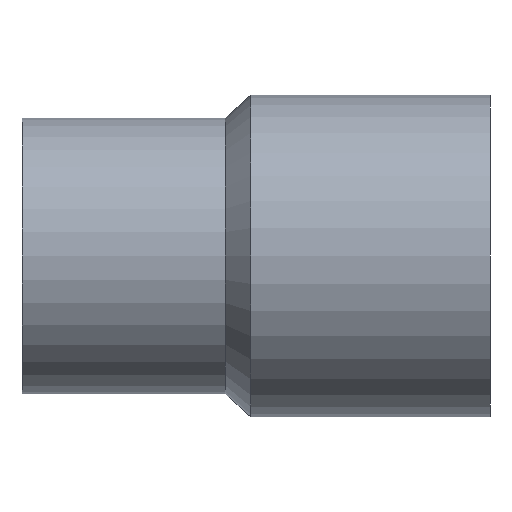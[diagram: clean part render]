
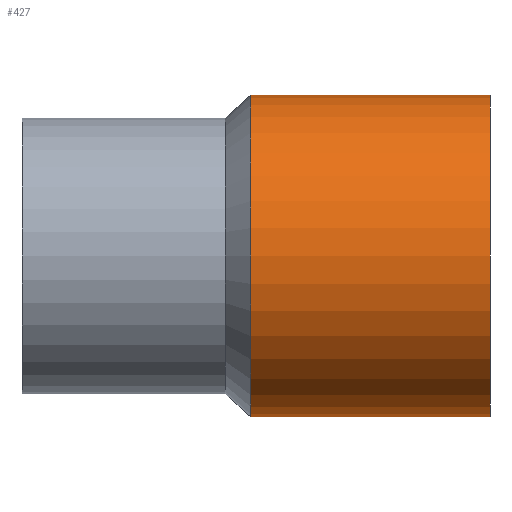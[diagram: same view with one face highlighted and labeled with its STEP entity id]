
A CAD part, front view. The second image highlights one B-rep face of the part: STEP entity #427.
In plain terms, the highlighted cylindrical face has radius 31.625 mm (diameter 63.25 mm), a partial arc.
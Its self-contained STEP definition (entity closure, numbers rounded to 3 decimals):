
#16 = AXIS2_PLACEMENT_3D ( 'NONE', #140, #131, #141 ) ;
#71 = LINE ( 'NONE', #77, #224 ) ;
#77 = CARTESIAN_POINT ( 'NONE',  ( -77.962, 0., -31.625 ) ) ;
#88 = DIRECTION ( 'NONE',  ( -1., 0., 0. ) ) ;
#90 = CARTESIAN_POINT ( 'NONE',  ( 42., 0., 31.625 ) ) ;
#98 = CARTESIAN_POINT ( 'NONE',  ( 42., 0., -31.625 ) ) ;
#100 = CARTESIAN_POINT ( 'NONE',  ( -77.962, 0., 31.625 ) ) ;
#101 = CARTESIAN_POINT ( 'NONE',  ( -5., 0., -31.625 ) ) ;
#104 = CARTESIAN_POINT ( 'NONE',  ( -5., 0., 31.625 ) ) ;
#107 = LINE ( 'NONE', #100, #236 ) ;
#112 = DIRECTION ( 'NONE',  ( -1., 0., 0. ) ) ;
#123 = FACE_OUTER_BOUND ( 'NONE', #356, .T. ) ;
#131 = DIRECTION ( 'NONE',  ( -1., 0., 0. ) ) ;
#136 = CYLINDRICAL_SURFACE ( 'NONE', #16, 31.625 ) ;
#140 = CARTESIAN_POINT ( 'NONE',  ( -77.962, 0., 0. ) ) ;
#141 = DIRECTION ( 'NONE',  ( 0., 0., 1. ) ) ;
#157 = CARTESIAN_POINT ( 'NONE',  ( -5., 0., 0. ) ) ;
#158 = DIRECTION ( 'NONE',  ( -1., 0., 0. ) ) ;
#159 = DIRECTION ( 'NONE',  ( 0., 0., 1. ) ) ;
#160 = CARTESIAN_POINT ( 'NONE',  ( 42., 0., 0. ) ) ;
#161 = DIRECTION ( 'NONE',  ( -1., 0., 0. ) ) ;
#162 = DIRECTION ( 'NONE',  ( 0., 0., 1. ) ) ;
#191 = AXIS2_PLACEMENT_3D ( 'NONE', #160, #161, #162 ) ;
#192 = CIRCLE ( 'NONE', #191, 31.625 ) ;
#194 = AXIS2_PLACEMENT_3D ( 'NONE', #157, #158, #159 ) ;
#195 = CIRCLE ( 'NONE', #194, 31.625 ) ;
#224 = VECTOR ( 'NONE', #88, 1000. ) ;
#236 = VECTOR ( 'NONE', #112, 1000. ) ;
#294 = EDGE_CURVE ( 'NONE', #324, #393, #71, .T. ) ;
#316 = VERTEX_POINT ( 'NONE', #90 ) ;
#324 = VERTEX_POINT ( 'NONE', #98 ) ;
#326 = ORIENTED_EDGE ( 'NONE', *, *, #294, .F. ) ;
#327 = ORIENTED_EDGE ( 'NONE', *, *, #434, .T. ) ;
#328 = ORIENTED_EDGE ( 'NONE', *, *, #418, .T. ) ;
#329 = ORIENTED_EDGE ( 'NONE', *, *, #433, .F. ) ;
#356 = EDGE_LOOP ( 'NONE', ( #326, #327, #328, #329 ) ) ;
#393 = VERTEX_POINT ( 'NONE', #101 ) ;
#398 = VERTEX_POINT ( 'NONE', #104 ) ;
#418 = EDGE_CURVE ( 'NONE', #316, #398, #107, .T. ) ;
#427 = ADVANCED_FACE ( 'NONE', ( #123 ), #136, .T. ) ;
#433 = EDGE_CURVE ( 'NONE', #393, #398, #195, .T. ) ;
#434 = EDGE_CURVE ( 'NONE', #324, #316, #192, .T. ) ;
